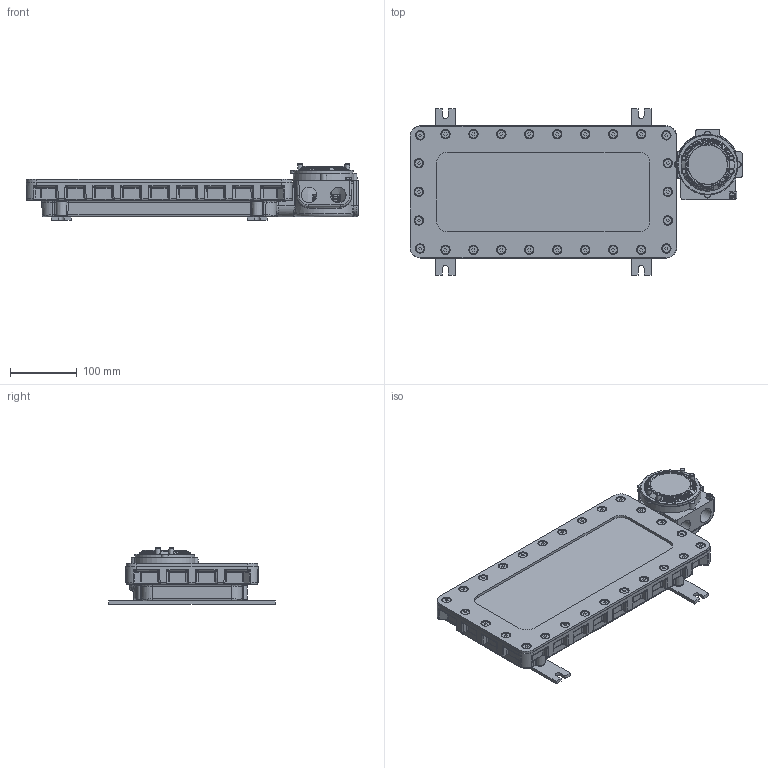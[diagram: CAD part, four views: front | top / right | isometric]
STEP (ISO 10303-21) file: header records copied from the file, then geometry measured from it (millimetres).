
FILE_DESCRIPTION((''),'2;1');
FILE_NAME('\\192.168.5.25\cortem_klient\INVENTOR БАЗА МОДЕЛЕЙ\Актуальная база моделей для отдела продаж\ПГС-ИТ\ПГС-ИТ35.stp','2020-04-08T14:06:00',('K.S.Bezzubikov'),(''),'Autodesk Inventor 2012','Autodesk Inventor 2012','');
FILE_SCHEMA(('AUTOMOTIVE_DESIGN { 1 0 10303 214 1 1 1 1 }'));
Length unit declared in the file: millimetre
Products named in the file (1): ПГС-ИТ35-12DC-ВЫХОД-Б-З 4 отв. М25х1,5_ЛНД_Внешний контур_1
Bounding box: 498.9 x 250 x 85 mm (x, y, z)
Volume: 2769903.3 mm3; surface area: 509490.2 mm2
Topology: 1 solids, 62 shells, 3817 faces, 9879 edges, 6196 vertices
Faces by surface type: plane 1599, cylinder 941, bspline 804, cone 240, torus 119, sphere 114
Full cylindrical faces by diameter (mm): 3.2 x9, 4.1 x3, 4.4 x15, 4.9 x26, 5 x1, 6 x1, 6.6 x4, 6.9 x1, 7 x26, 9 x4, 12 x26, 16 x4, 18 x1, 23.4 x4, 77 x1, 80 x2, 83 x1
Entity records: 132155 total; most frequent: CARTESIAN_POINT 44852, ORIENTED_EDGE 18572, DIRECTION 16056, EDGE_CURVE 9286, VERTEX_POINT 5977, AXIS2_PLACEMENT_3D 5776, VECTOR 4504, LINE 4504
